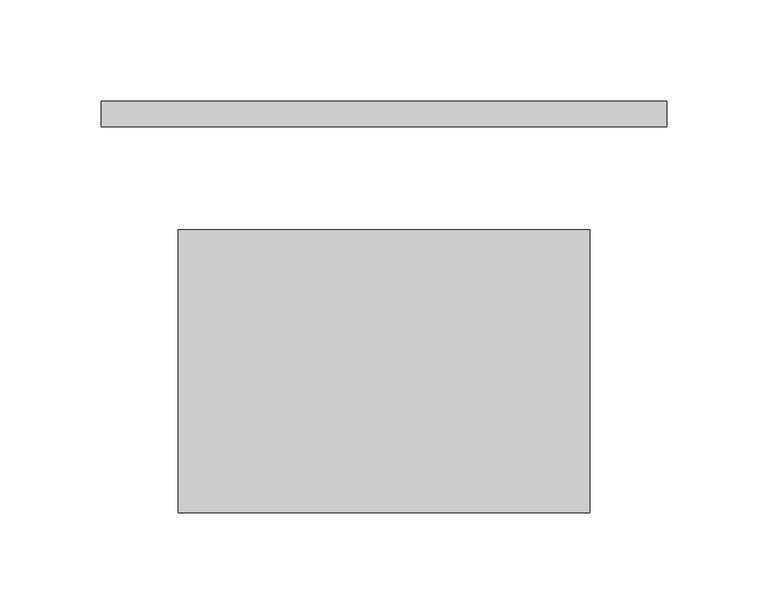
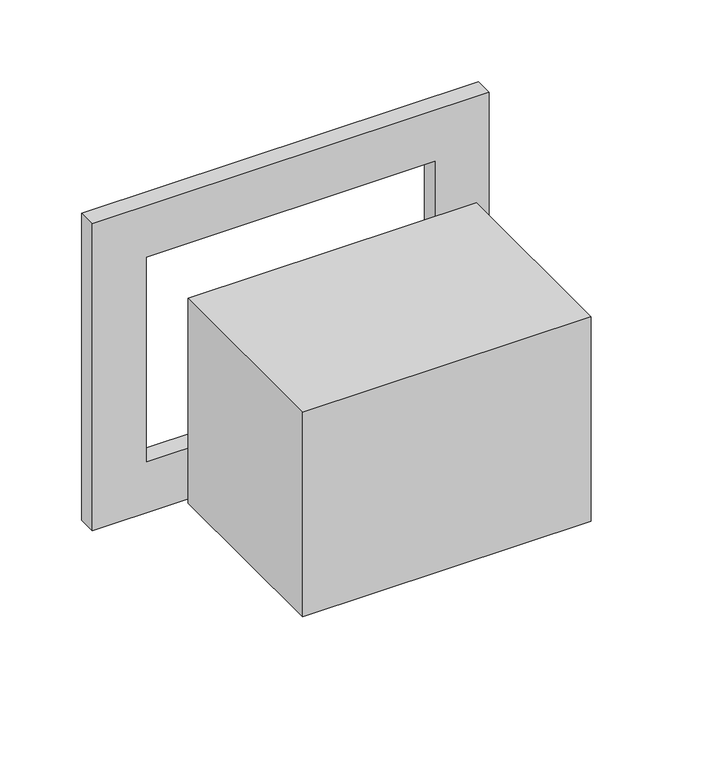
"""IFC4 building model written with IfcOpenShell, lengths in millimetres: proxy geometry, Wall void 1  : Wall void 1 ."""

from ifc_helpers import new_model, si_unit, frame, origin, origin_with_axes, place, context, project, spatial, polyline, outline, extrude, source, transform, mapped, element, save


def generic_models_7bf03cc9(model_context):
    return source(origin(), model_context, "Body", "SweptSolid", [
        extrude(outline(polyline([(125.0, 44.45), (328.2, 44.45), (328.2, -95.25), (125.0, -95.25), (125.0, 44.45)])), origin_with_axes(), (0.0, 0.0, 1.0), 152.4),
        extrude(outline(polyline([(190.5, 366.3), (190.5, 86.9), (-38.1, 86.9), (-38.1, 366.3), (190.5, 366.3)]), holes=[polyline([(0.0, 328.2), (0.0, 125.0), (152.4, 125.0), (152.4, 328.2), (0.0, 328.2)])]), frame((0.0, 95.25, 0.0), z_axis=(0.0, 1.0, 0.0), x_axis=(0.0, 0.0, 1.0)), (0.0, 0.0, 1.0), 12.7),
    ])


if __name__ == "__main__":
    model = new_model("IFC4")
    model_context = context("Model", 3, world=origin())
    ifc_project = project(units=[si_unit("LENGTHUNIT", "METRE", prefix="MILLI")], contexts=[model_context])
    site = spatial("IfcSite", under=ifc_project)
    building = spatial("IfcBuilding", under=site)
    placement = place(None, origin())
    generic_models_shape = generic_models_7bf03cc9(model_context)
    element("IfcBuildingElementProxy", 1, Name="Wall void 1  : Wall void 1 ", ObjectType="Wall void 1  : Wall void 1 ", at=placement, inside=building, context=model_context, shape_type="MappedRepresentation", body=[
        mapped(generic_models_shape, transform((0.0, 0.0, 0.0), x_axis=(1.0, 0.0, 0.0), y_axis=(0.0, 1.0, 0.0), z_axis=(0.0, 0.0, 1.0))),
    ])
    save(model, "model.ifc")
